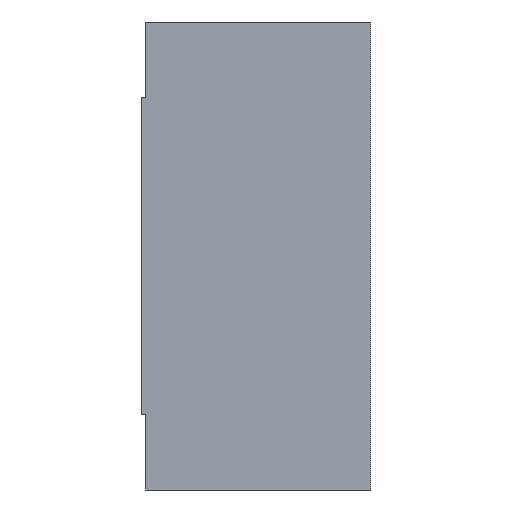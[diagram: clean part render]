
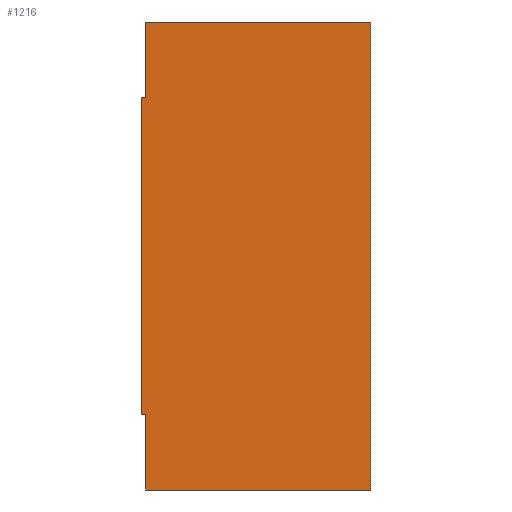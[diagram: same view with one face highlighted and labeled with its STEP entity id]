
A CAD part, left-side view. The second image highlights one B-rep face of the part: STEP entity #1216.
In plain terms, the highlighted planar face has unit normal (-1, 0, 0).
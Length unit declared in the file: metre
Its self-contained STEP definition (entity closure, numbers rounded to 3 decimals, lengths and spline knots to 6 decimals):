
#146=ORIENTED_EDGE('',*,*,#438,.T.);
#147=ORIENTED_EDGE('',*,*,#454,.F.);
#148=ORIENTED_EDGE('',*,*,#448,.T.);
#149=ORIENTED_EDGE('',*,*,#444,.T.);
#150=ORIENTED_EDGE('',*,*,#453,.F.);
#151=ORIENTED_EDGE('',*,*,#455,.T.);
#152=ORIENTED_EDGE('',*,*,#441,.F.);
#153=ORIENTED_EDGE('',*,*,#456,.F.);
#438=EDGE_CURVE('',#591,#593,#722,.T.);
#441=EDGE_CURVE('',#596,#597,#725,.T.);
#444=EDGE_CURVE('',#599,#600,#727,.T.);
#448=EDGE_CURVE('',#603,#599,#731,.T.);
#453=EDGE_CURVE('',#606,#600,#736,.T.);
#454=EDGE_CURVE('',#603,#593,#737,.T.);
#455=EDGE_CURVE('',#606,#597,#738,.T.);
#456=EDGE_CURVE('',#591,#596,#739,.T.);
#591=VERTEX_POINT('',#1827);
#593=VERTEX_POINT('',#1831);
#596=VERTEX_POINT('',#1838);
#597=VERTEX_POINT('',#1840);
#599=VERTEX_POINT('',#1847);
#600=VERTEX_POINT('',#1848);
#603=VERTEX_POINT('',#1856);
#606=VERTEX_POINT('',#1864);
#722=LINE('',#1832,#820);
#725=LINE('',#1839,#823);
#727=LINE('',#1846,#825);
#731=LINE('',#1855,#829);
#736=LINE('',#1865,#834);
#737=LINE('',#1867,#835);
#738=LINE('',#1868,#836);
#739=LINE('',#1869,#837);
#820=VECTOR('',#1452,1.);
#823=VECTOR('',#1457,1.);
#825=VECTOR('',#1465,1.);
#829=VECTOR('',#1471,1.);
#834=VECTOR('',#1478,1.);
#835=VECTOR('',#1481,1.);
#836=VECTOR('',#1482,1.);
#837=VECTOR('',#1483,1.);
#921=EDGE_LOOP('',(#146,#147,#148,#149,#150,#151,#152,#153));
#1041=FACE_BOUND('',#921,.T.);
#1175=PLANE('',#1313);
#1216=ADVANCED_FACE('',(#1041),#1175,.F.);
#1313=AXIS2_PLACEMENT_3D('',#1866,#1479,#1480);
#1452=DIRECTION('',(0.,-1.,0.));
#1457=DIRECTION('',(0.,-1.,0.));
#1465=DIRECTION('',(0.,0.,1.));
#1471=DIRECTION('',(0.,-1.,0.));
#1478=DIRECTION('',(0.,-1.,0.));
#1479=DIRECTION('',(1.,0.,0.));
#1480=DIRECTION('',(0.,0.,-1.));
#1481=DIRECTION('',(0.,0.,1.));
#1482=DIRECTION('',(0.,0.,-1.));
#1483=DIRECTION('',(0.,0.,1.));
#1827=CARTESIAN_POINT('',(0.,0.026,-0.0445));
#1831=CARTESIAN_POINT('',(0.,0.0255,-0.0445));
#1832=CARTESIAN_POINT('',(0.,0.026,-0.0445));
#1838=CARTESIAN_POINT('',(0.,0.026,-0.0085));
#1839=CARTESIAN_POINT('',(0.,0.026,-0.0085));
#1840=CARTESIAN_POINT('',(0.,0.0255,-0.0085));
#1846=CARTESIAN_POINT('',(0.,0.,0.));
#1847=CARTESIAN_POINT('',(0.,0.,-0.053));
#1848=CARTESIAN_POINT('',(0.,0.,0.));
#1855=CARTESIAN_POINT('',(0.,0.026,-0.053));
#1856=CARTESIAN_POINT('',(0.,0.0255,-0.053));
#1864=CARTESIAN_POINT('',(0.,0.0255,0.));
#1865=CARTESIAN_POINT('',(0.,0.026,0.));
#1866=CARTESIAN_POINT('',(0.,0.026,0.));
#1867=CARTESIAN_POINT('',(0.,0.0255,-0.053));
#1868=CARTESIAN_POINT('',(0.,0.0255,0.));
#1869=CARTESIAN_POINT('',(0.,0.026,0.));
